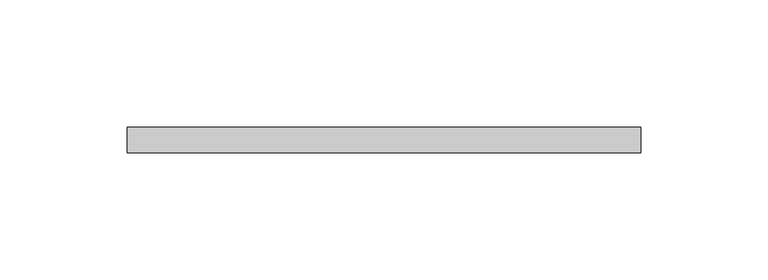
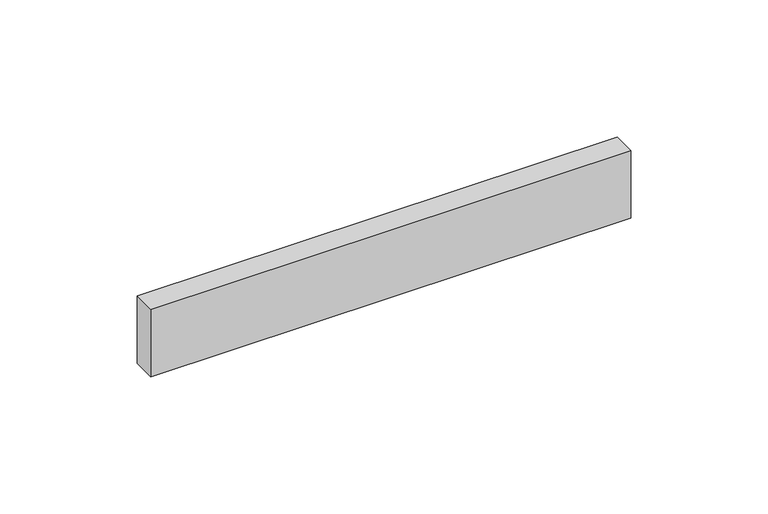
"""IFC4 building model written with IfcOpenShell, lengths in millimetres: proxy geometry, SCHWINN-BAR PULL 2334.192."""

from ifc_helpers import new_model, si_unit, frame, origin, place, context, project, spatial, polyline, outline, extrude, source, transform, mapped, element, save


def generic_models_9caf6cdd(model_context):
    return source(origin(), model_context, "Body", "SweptSolid", [
        extrude(outline(polyline([(244.8625, 0.0), (42.8625, 0.0), (42.8625, 10.0), (244.8625, 10.0), (244.8625, 0.0)])), frame((0.0, 0.0, 25.4), z_axis=(0.0, 0.0, 1.0), x_axis=(1.0, 0.0, 0.0)), (0.0, 0.0, 1.0), 30.0),
    ])


if __name__ == "__main__":
    model = new_model("IFC4")
    model_context = context("Model", 3, world=origin())
    ifc_project = project(units=[si_unit("LENGTHUNIT", "METRE", prefix="MILLI")], contexts=[model_context])
    site = spatial("IfcSite", under=ifc_project)
    building = spatial("IfcBuilding", under=site)
    placement = place(None, origin())
    generic_models_shape = generic_models_9caf6cdd(model_context)
    element("IfcBuildingElementProxy", 1, Name="SCHWINN-BAR PULL 2334.192", ObjectType="SCHWINN-BAR PULL 2334.192", at=placement, inside=building, context=model_context, shape_type="MappedRepresentation", body=[
        mapped(generic_models_shape, transform((0.0, 0.0, 0.0), x_axis=(1.0, 0.0, 0.0), y_axis=(0.0, 1.0, 0.0), z_axis=(0.0, 0.0, 1.0))),
    ])
    save(model, "model.ifc")
